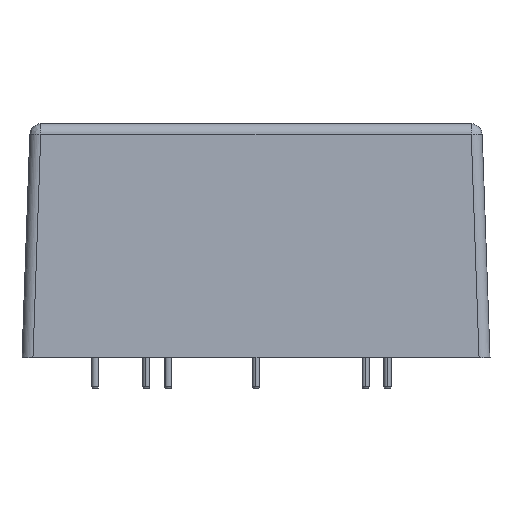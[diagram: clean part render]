
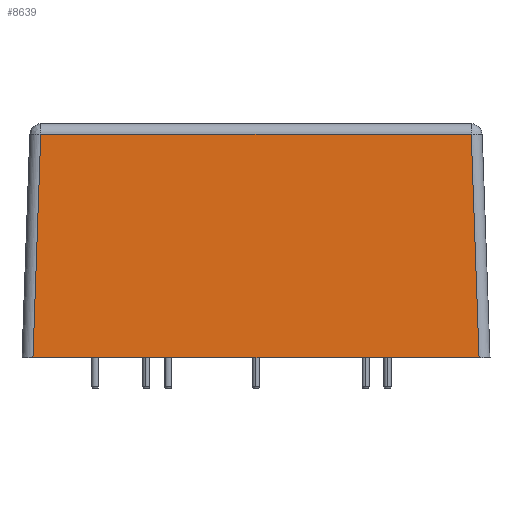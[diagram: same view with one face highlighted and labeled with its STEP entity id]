
A CAD part, left-side view. The second image highlights one B-rep face of the part: STEP entity #8639.
In plain terms, the highlighted planar face has unit normal (-0.999, 0, 0.035).
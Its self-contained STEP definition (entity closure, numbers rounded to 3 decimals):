
#1570 = VECTOR ( 'NONE', #10215, 1000. ) ;
#1939 = VERTEX_POINT ( 'NONE', #3562 ) ;
#2439 = CARTESIAN_POINT ( 'NONE',  ( 1.067, 61.434, -1.448 ) ) ;
#3562 = CARTESIAN_POINT ( 'NONE',  ( 1.067, 61.434, -1.448 ) ) ;
#3883 = VECTOR ( 'NONE', #4552, 1000. ) ;
#4552 = DIRECTION ( 'NONE',  ( 0.035, 0.035, 0.999 ) ) ;
#4635 = EDGE_CURVE ( 'NONE', #12217, #6237, #14140, .T. ) ;
#4698 = CARTESIAN_POINT ( 'NONE',  ( 0., 1.499, -32. ) ) ;
#4974 = CARTESIAN_POINT ( 'NONE',  ( 0., 62.501, -32. ) ) ;
#5055 = VECTOR ( 'NONE', #5080, 1000. ) ;
#5080 = DIRECTION ( 'NONE',  ( 0., 1., 0. ) ) ;
#5223 = ORIENTED_EDGE ( 'NONE', *, *, #14502, .T. ) ;
#5527 = EDGE_CURVE ( 'NONE', #6237, #1939, #11882, .T. ) ;
#5532 = EDGE_LOOP ( 'NONE', ( #11028, #10746, #5223, #9686 ) ) ;
#5627 = DIRECTION ( 'NONE',  ( 0.035, 0., 0.999 ) ) ;
#5706 = LINE ( 'NONE', #16147, #15561 ) ;
#6070 = AXIS2_PLACEMENT_3D ( 'NONE', #14568, #13326, #5627 ) ;
#6237 = VERTEX_POINT ( 'NONE', #16691 ) ;
#7153 = DIRECTION ( 'NONE',  ( 0., -1., 0. ) ) ;
#8448 = LINE ( 'NONE', #2439, #1570 ) ;
#8639 = ADVANCED_FACE ( 'NONE', ( #14342 ), #12006, .T. ) ;
#9686 = ORIENTED_EDGE ( 'NONE', *, *, #12701, .T. ) ;
#10047 = VERTEX_POINT ( 'NONE', #4974 ) ;
#10189 = CARTESIAN_POINT ( 'NONE',  ( 1.067, 64., -1.448 ) ) ;
#10215 = DIRECTION ( 'NONE',  ( -0.035, 0.035, -0.999 ) ) ;
#10746 = ORIENTED_EDGE ( 'NONE', *, *, #5527, .T. ) ;
#10972 = CARTESIAN_POINT ( 'NONE',  ( 0., 1.499, -32. ) ) ;
#11028 = ORIENTED_EDGE ( 'NONE', *, *, #4635, .T. ) ;
#11882 = LINE ( 'NONE', #10189, #5055 ) ;
#12006 = PLANE ( 'NONE',  #6070 ) ;
#12217 = VERTEX_POINT ( 'NONE', #4698 ) ;
#12701 = EDGE_CURVE ( 'NONE', #10047, #12217, #5706, .T. ) ;
#13326 = DIRECTION ( 'NONE',  ( -0.999, 0., 0.035 ) ) ;
#14140 = LINE ( 'NONE', #10972, #3883 ) ;
#14342 = FACE_OUTER_BOUND ( 'NONE', #5532, .T. ) ;
#14502 = EDGE_CURVE ( 'NONE', #1939, #10047, #8448, .T. ) ;
#14568 = CARTESIAN_POINT ( 'NONE',  ( 1.117, 64., -0.019 ) ) ;
#15561 = VECTOR ( 'NONE', #7153, 1000. ) ;
#16147 = CARTESIAN_POINT ( 'NONE',  ( 0., 32., -32. ) ) ;
#16691 = CARTESIAN_POINT ( 'NONE',  ( 1.067, 2.566, -1.448 ) ) ;
